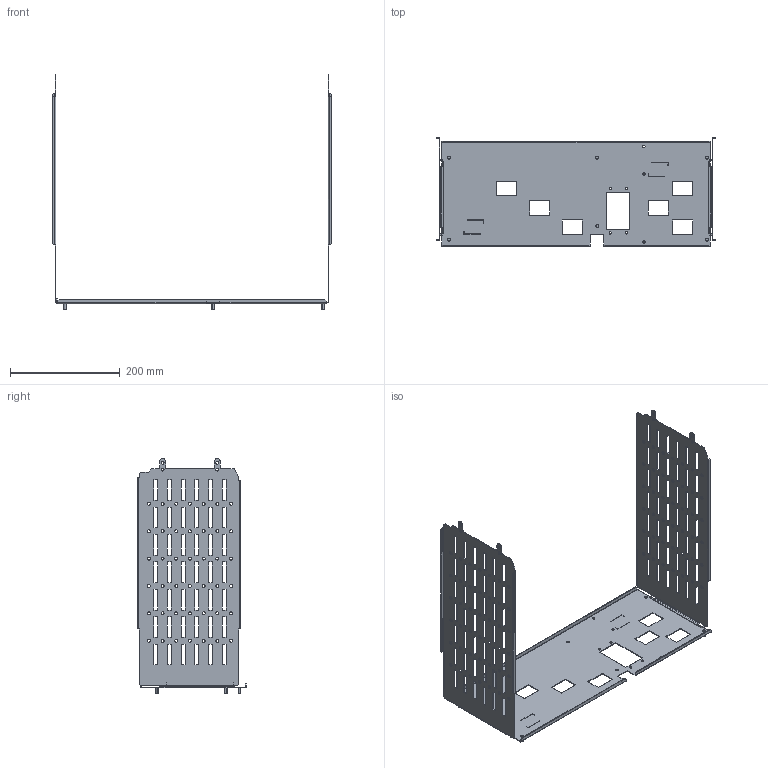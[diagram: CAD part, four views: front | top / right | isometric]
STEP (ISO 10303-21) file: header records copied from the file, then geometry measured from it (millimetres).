
FILE_DESCRIPTION(('CAx-IF Rec.Pracs.---Model Styling and Organization---1.2---2011-12-15','CAx-IF Rec.Pracs.---Geometric and Assembly Validation Properties---4.1---2014-06-16','CAx-IF Rec.Pracs.---PMI Polyline Presentation---2.0---2013-05-24'),'2;1');
FILE_NAME('R5M2W4M1A22.stp','2021-05-05T12:18:15+03:00',(''),(''),'STEP Interface 4.4 by CT CoreTechnologie','3D_Evolution4.4 by CT CoreTechnologie','');
FILE_SCHEMA(('AUTOMOTIVE_DESIGN { 1 0 10303 214 1 1 1 1 }'));
Length unit declared in the file: millimetre
Products named in the file (5): R5M2W4M1A22; M5x8-DIN7500C_stright; RB.1257.00.00.0_-03; RB.1285.00.00.0_-08; RB.1285.00.00.0_-09
Assembly tree (9 placements, depth 2):
  R5M2W4M1A22
    M5x8-DIN7500C_stright  x6
    RB.1257.00.00.0_-03
    RB.1285.00.00.0_-08
    RB.1285.00.00.0_-09
Bounding box: 510 x 197.5 x 428.6 mm (x, y, z)
Surface area: 458868.4 mm2 (no closed solid volume)
Topology: 0 solids, 11 shells, 800 faces, 2366 edges, 1580 vertices
Faces by surface type: plane 536, cylinder 264
Entity records: 27356 total; most frequent: CARTESIAN_POINT 4686, ORIENTED_EDGE 4672, DIRECTION 4428, EDGE_CURVE 2336, VECTOR 1824, LINE 1824, VERTEX_POINT 1560, AXIS2_PLACEMENT_3D 1302
